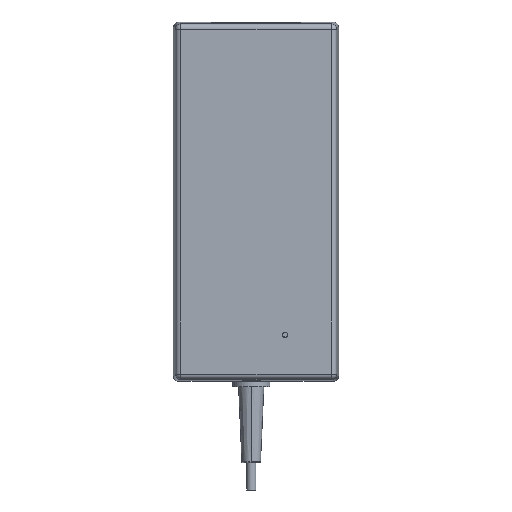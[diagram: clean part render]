
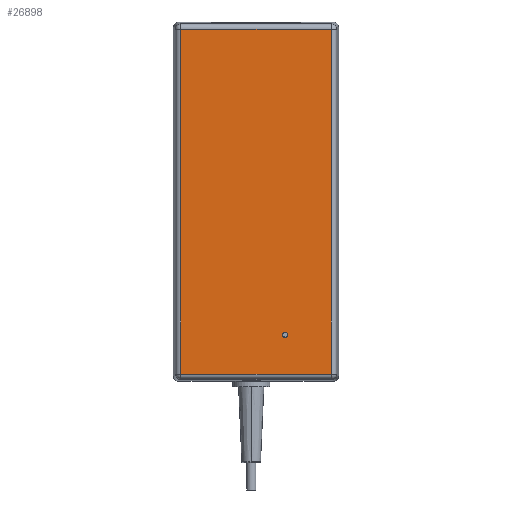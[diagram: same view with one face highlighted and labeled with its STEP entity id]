
A CAD part, front view. The second image highlights one B-rep face of the part: STEP entity #26898.
In plain terms, the highlighted planar face has unit normal (0, -1, 0).
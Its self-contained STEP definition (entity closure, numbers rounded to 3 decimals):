
#17823=DIRECTION('',(1.,0.,0.));
#17824=VECTOR('',#17823,56.553);
#17825=CARTESIAN_POINT('',(-28.277,-16.,-64.777));
#17826=LINE('',#17825,#17824);
#17830=DIRECTION('',(0.,0.,-1.));
#17831=VECTOR('',#17830,129.553);
#17832=CARTESIAN_POINT('',(-28.277,-16.,64.777));
#17833=LINE('',#17832,#17831);
#17837=DIRECTION('',(-1.,0.,0.));
#17838=VECTOR('',#17837,56.553);
#17839=CARTESIAN_POINT('',(28.277,-16.,64.777));
#17840=LINE('',#17839,#17838);
#17844=DIRECTION('',(0.,0.,1.));
#17845=VECTOR('',#17844,129.553);
#17846=CARTESIAN_POINT('',(28.277,-16.,-64.777));
#17847=LINE('',#17846,#17845);
#17851=CARTESIAN_POINT('',(11.,-16.,-50.));
#17852=DIRECTION('',(0.,1.,0.));
#17853=DIRECTION('',(1.,0.,0.));
#17854=AXIS2_PLACEMENT_3D('',#17851,#17852,#17853);
#17859=CARTESIAN_POINT('',(11.,-16.,-50.));
#17860=DIRECTION('',(0.,1.,0.));
#17861=DIRECTION('',(-1.,0.,0.));
#17862=AXIS2_PLACEMENT_3D('',#17859,#17860,#17861);
#25661=CARTESIAN_POINT('',(-28.277,-16.,64.777));
#25663=VERTEX_POINT('',#25661);
#25679=CARTESIAN_POINT('',(-28.277,-16.,-64.777));
#25680=CARTESIAN_POINT('',(28.277,-16.,-64.777));
#25681=VERTEX_POINT('',#25679);
#25682=VERTEX_POINT('',#25680);
#25687=CARTESIAN_POINT('',(28.277,-16.,64.777));
#25688=VERTEX_POINT('',#25687);
#26604=CARTESIAN_POINT('',(12.,-16.,-50.));
#26605=CARTESIAN_POINT('',(10.,-16.,-50.));
#26606=VERTEX_POINT('',#26604);
#26607=VERTEX_POINT('',#26605);
#26877=CARTESIAN_POINT('',(0.,-16.,0.));
#26878=DIRECTION('',(0.,1.,0.));
#26879=DIRECTION('',(1.,0.,0.));
#26880=AXIS2_PLACEMENT_3D('',#26877,#26878,#26879);
#26881=PLANE('',#26880);
#26883=ORIENTED_EDGE('',*,*,#26882,.F.);
#26885=ORIENTED_EDGE('',*,*,#26884,.F.);
#26887=ORIENTED_EDGE('',*,*,#26886,.F.);
#26889=ORIENTED_EDGE('',*,*,#26888,.F.);
#26890=EDGE_LOOP('',(#26883,#26885,#26887,#26889));
#26891=FACE_OUTER_BOUND('',#26890,.F.);
#26893=ORIENTED_EDGE('',*,*,#26892,.F.);
#26895=ORIENTED_EDGE('',*,*,#26894,.F.);
#26896=EDGE_LOOP('',(#26893,#26895));
#26897=FACE_BOUND('',#26896,.F.);
#17855=CIRCLE('',#17854,1.);
#17863=CIRCLE('',#17862,1.);
#26882=EDGE_CURVE('',#25681,#25682,#17826,.T.);
#26884=EDGE_CURVE('',#25663,#25681,#17833,.T.);
#26886=EDGE_CURVE('',#25688,#25663,#17840,.T.);
#26888=EDGE_CURVE('',#25682,#25688,#17847,.T.);
#26892=EDGE_CURVE('',#26606,#26607,#17855,.T.);
#26894=EDGE_CURVE('',#26607,#26606,#17863,.T.);
#26898=ADVANCED_FACE('',(#26891,#26897),#26881,.F.);
